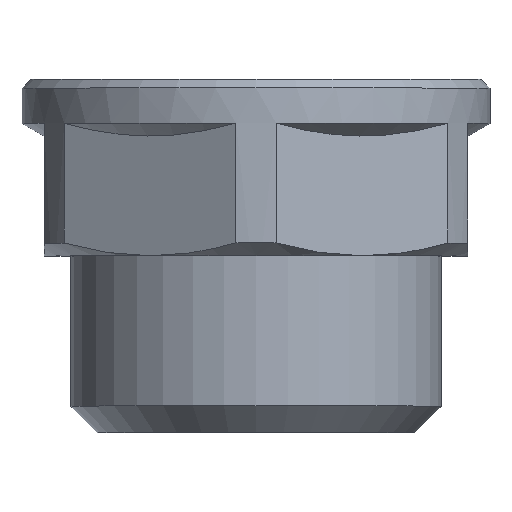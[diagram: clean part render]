
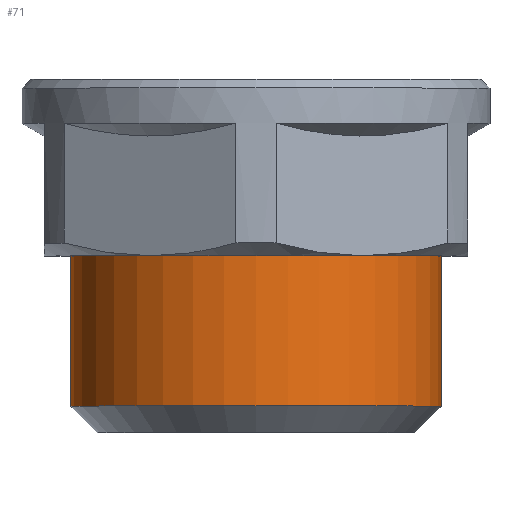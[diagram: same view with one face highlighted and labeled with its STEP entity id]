
A CAD part, top view. The second image highlights one B-rep face of the part: STEP entity #71.
In plain terms, the highlighted cylindrical face has radius 10.477 mm (diameter 20.955 mm), a full revolution.
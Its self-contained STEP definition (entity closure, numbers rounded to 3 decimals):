
#71=ADVANCED_FACE('',(#282,#284),#286,.T.);
#282=FACE_OUTER_BOUND('',#283,.T.);
#283=EDGE_LOOP('',(#427));
#284=FACE_OUTER_BOUND('',#285,.T.);
#285=EDGE_LOOP('',(#428));
#286=CYLINDRICAL_SURFACE('',#287,10.478);
#287=AXIS2_PLACEMENT_3D('',#288,#289,#290);
#288=CARTESIAN_POINT('',(0.,0.,0.));
#289=DIRECTION('',(0.,-1.,0.));
#290=DIRECTION('',(0.,0.,1.));
#427=ORIENTED_EDGE('',*,*,#500,.T.);
#428=ORIENTED_EDGE('',*,*,#475,.F.);
#475=EDGE_CURVE('',#571,#571,#572,.T.);
#500=EDGE_CURVE('',#605,#605,#606,.T.);
#571=VERTEX_POINT('',#770);
#572=CIRCLE('',#771,10.478);
#605=VERTEX_POINT('',#1330);
#606=CIRCLE('',#1331,10.478);
#770=CARTESIAN_POINT('',(0.,-8.5,10.478));
#771=AXIS2_PLACEMENT_3D('',#772,#773,#774);
#772=CARTESIAN_POINT('',(0.,-8.5,0.));
#773=DIRECTION('',(0.,-1.,0.));
#774=DIRECTION('',(0.,0.,1.));
#1330=CARTESIAN_POINT('',(0.,0.,10.478));
#1331=AXIS2_PLACEMENT_3D('',#1332,#1333,#1334);
#1332=CARTESIAN_POINT('',(0.,0.,0.));
#1333=DIRECTION('',(0.,-1.,0.));
#1334=DIRECTION('',(0.,0.,1.));
